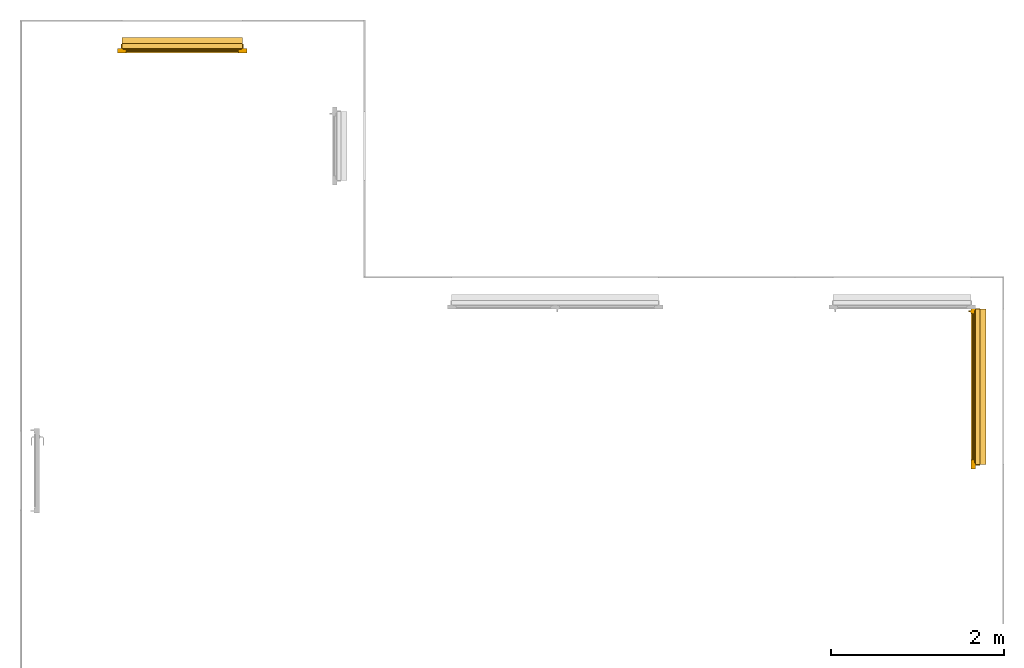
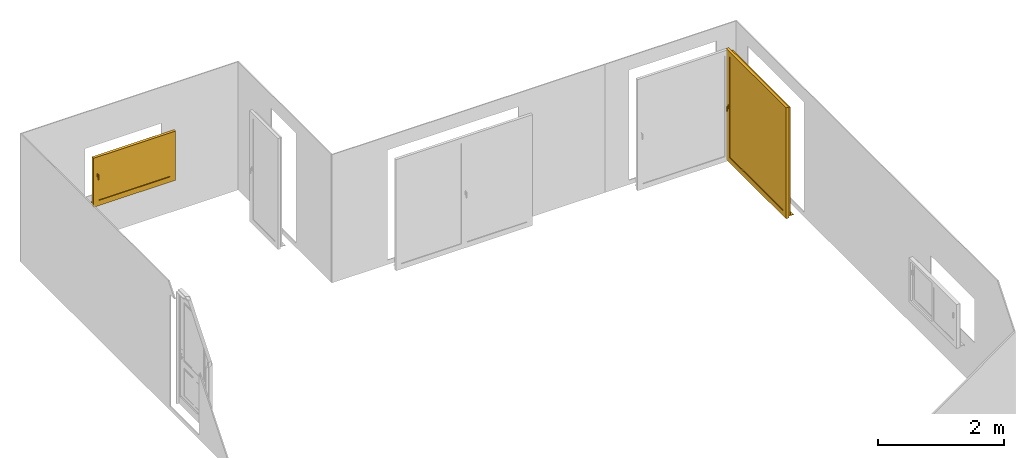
# One storey, part 4 of 6: 2 windows.
"""IFC2X3 building model written with IfcOpenShell, lengths in centimetres."""

from ifc_helpers import new_model, entity, si_unit, converted_unit, derived_unit, direction, frame, origin, place, context, subcontext, project, spatial, faceted_brep, source, transform, mapped, material, material_list, type_object, type_shapes, element, save


model = new_model("IFC2X3")

# Units and contexts
model_context = context("Model", 3, precision=0.001, world=origin(), true_north=direction((6.12303176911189e-17, 1.0)))
body_context = subcontext(model_context, "Body", "Model", "MODEL_VIEW")
ifc_project = project(units=[si_unit("LENGTHUNIT", "METRE", prefix="CENTI"), si_unit("AREAUNIT", "SQUARE_METRE"), si_unit("VOLUMEUNIT", "CUBIC_METRE"), converted_unit("PLANEANGLEUNIT", "DEGREE", entity("IfcRatioMeasure", 0.0174532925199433), si_unit("PLANEANGLEUNIT", "RADIAN"), dimensions=[0, 0, 0, 0, 0, 0, 0]), si_unit("MASSUNIT", "GRAM", prefix="KILO"), derived_unit("MASSDENSITYUNIT", [(si_unit("MASSUNIT", "GRAM", prefix="KILO"), 1), (si_unit("LENGTHUNIT", "METRE"), -3)]), derived_unit("MOMENTOFINERTIAUNIT", [(si_unit("LENGTHUNIT", "METRE"), 4)]), si_unit("TIMEUNIT", "SECOND"), si_unit("FREQUENCYUNIT", "HERTZ"), si_unit("THERMODYNAMICTEMPERATUREUNIT", "DEGREE_CELSIUS"), derived_unit("THERMALTRANSMITTANCEUNIT", [(si_unit("MASSUNIT", "GRAM", prefix="KILO"), 1), (si_unit("THERMODYNAMICTEMPERATUREUNIT", "KELVIN"), -1), (si_unit("TIMEUNIT", "SECOND"), -3)]), derived_unit("VOLUMETRICFLOWRATEUNIT", [(si_unit("LENGTHUNIT", "METRE"), 3), (si_unit("TIMEUNIT", "SECOND"), -1)]), si_unit("ELECTRICCURRENTUNIT", "AMPERE"), si_unit("ELECTRICVOLTAGEUNIT", "VOLT"), si_unit("POWERUNIT", "WATT"), si_unit("FORCEUNIT", "NEWTON", prefix="KILO"), si_unit("ILLUMINANCEUNIT", "LUX"), si_unit("LUMINOUSFLUXUNIT", "LUMEN"), si_unit("LUMINOUSINTENSITYUNIT", "CANDELA"), derived_unit("USERDEFINED", [(si_unit("MASSUNIT", "GRAM", prefix="KILO"), -1), (si_unit("LENGTHUNIT", "METRE"), -2), (si_unit("TIMEUNIT", "SECOND"), 3), (si_unit("LUMINOUSFLUXUNIT", "LUMEN"), 1)]), derived_unit("LINEARVELOCITYUNIT", [(si_unit("LENGTHUNIT", "METRE"), 1), (si_unit("TIMEUNIT", "SECOND"), -1)]), si_unit("PRESSUREUNIT", "PASCAL"), derived_unit("USERDEFINED", [(si_unit("LENGTHUNIT", "METRE"), -2), (si_unit("MASSUNIT", "GRAM", prefix="KILO"), 1), (si_unit("TIMEUNIT", "SECOND"), -2)]), derived_unit("LINEARFORCEUNIT", [(si_unit("MASSUNIT", "GRAM", prefix="KILO"), 1), (si_unit("LENGTHUNIT", "METRE"), 1), (si_unit("TIMEUNIT", "SECOND"), -2), (si_unit("LENGTHUNIT", "METRE"), -1)]), derived_unit("PLANARFORCEUNIT", [(si_unit("MASSUNIT", "GRAM", prefix="KILO"), 1), (si_unit("LENGTHUNIT", "METRE"), 1), (si_unit("TIMEUNIT", "SECOND"), -2), (si_unit("LENGTHUNIT", "METRE"), -2)])], contexts=[model_context])

# Site, building, storey
site_placement = place(None, origin())
site = spatial("IfcSite", under=ifc_project, at=site_placement, Name="Surface", CompositionType="ELEMENT")
building_placement = place(site_placement, origin())
building = spatial("IfcBuilding", under=site, at=building_placement, CompositionType="ELEMENT")
storey_placement = place(building_placement, origin())
storey = spatial("IfcBuildingStorey", under=building, at=storey_placement, Name="1_Rez-de-chaussée", CompositionType="ELEMENT", Elevation=-7.93413063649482e-11)

# Windows
ifc_material_1 = material(Name="Fenêtre - Poignée")
ifc_material_2 = material(Name="Fenêtre - Appui")
ifc_material_3 = material(Name="Fenêtre - Vitrage")
ifc_material_4 = material(Name="Fenêtre - Cadre")
ifc_material_list_1 = material_list([ifc_material_1, ifc_material_2, ifc_material_3, ifc_material_4])
ifc_material_list_2 = material_list([ifc_material_4, ifc_material_2, ifc_material_3, ifc_material_1])
window_style_1 = type_object("IfcWindowStyle", Name="PF 1 Vantail - Droite blanc:180/210", ConstructionType="NOTDEFINED", OperationType="SINGLE_PANEL", ParameterTakesPrecedence=False, Sizeable=False, material=ifc_material_list_2)
shared_shape_1 = source(origin(), body_context, "Body", "Brep", [
    faceted_brep([(8.06460096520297, -58.6000000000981, 112.203392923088), (8.20339292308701, -58.6000000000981, 112.064600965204), (8.20339292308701, -58.6000000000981, 110.933230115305), (8.06676988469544, -58.6000000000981, 110.796607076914), (6.93323011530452, -58.6000000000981, 110.796607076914), (6.79660707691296, -58.6000000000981, 110.933230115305), (6.79660707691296, -58.6000000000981, 112.064600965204), (6.93539903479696, -58.6000000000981, 112.203392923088), (8.06460096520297, -59.891354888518, 112.203392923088), (8.20339292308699, -59.8338653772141, 112.064600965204), (8.20339292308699, -61.1646009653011, 110.733865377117), (8.20339292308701, -61.1646009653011, 102.0), (8.20339292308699, -60.0332301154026, 102.0), (8.20339292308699, -60.0332301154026, 110.265236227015), (8.20339292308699, -59.3652362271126, 110.933230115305), (8.06676988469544, -59.3086451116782, 110.796607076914), (6.93323011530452, -59.3086451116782, 110.796607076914), (6.79660707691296, -59.3652362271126, 110.933230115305), (6.79660707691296, -60.0332301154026, 110.265236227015), (6.79660707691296, -60.0332301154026, 102.0), (6.79660707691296, -61.1646009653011, 102.0), (6.79660707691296, -61.1646009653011, 110.733865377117), (6.79660707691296, -59.8338653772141, 112.064600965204), (6.93539903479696, -59.891354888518, 112.203392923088), (8.06460096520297, -61.3033929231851, 110.791354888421), (8.06676988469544, -59.896607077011, 110.208645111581), (6.93323011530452, -59.896607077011, 110.208645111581), (6.93539903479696, -61.3033929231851, 110.791354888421), (8.06460096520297, -61.3033929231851, 102.0), (6.93539903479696, -61.3033929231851, 102.0), (6.93323011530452, -59.896607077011, 102.0), (8.06676988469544, -59.896607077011, 102.0)], [[[0, 1, 2, 3, 4, 5, 6, 7]], [[1, 0, 8, 9]], [[2, 1, 9, 10, 11, 12, 13, 14]], [[3, 2, 14, 15]], [[4, 3, 15, 16]], [[5, 4, 16, 17]], [[6, 5, 17, 18, 19, 20, 21, 22]], [[7, 6, 22, 23]], [[0, 7, 23, 8]], [[9, 8, 24, 10]], [[15, 14, 13, 25]], [[16, 15, 25, 26]], [[17, 16, 26, 18]], [[23, 22, 21, 27]], [[8, 23, 27, 24]], [[28, 29, 20, 19, 30, 31, 12, 11]], [[10, 24, 28, 11]], [[25, 13, 12, 31]], [[26, 25, 31, 30]], [[18, 26, 30, 19]], [[27, 21, 20, 29]], [[24, 27, 29, 28]]]),
    faceted_brep([(8.20000000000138, -58.6000000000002, 114.0), (6.79999999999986, -58.6000000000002, 114.0), (6.29999999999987, -58.6000000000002, 113.500000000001), (6.29999999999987, -58.6000000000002, 106.499999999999), (6.79999999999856, -58.6000000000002, 106.0), (8.20000000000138, -58.6000000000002, 106.0), (8.69999999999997, -58.6000000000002, 106.499999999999), (8.69999999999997, -58.6000000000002, 113.500000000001), (8.20000000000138, -58.0, 114.0), (8.69999999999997, -58.0, 113.500000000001), (8.69999999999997, -58.0, 106.499999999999), (8.20000000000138, -58.0, 106.0), (6.79999999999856, -58.0, 106.0), (6.29999999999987, -58.0, 106.499999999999), (6.29999999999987, -58.0, 113.500000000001), (6.79999999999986, -58.0, 114.0)], [[[0, 1, 2, 3, 4, 5, 6, 7]], [[8, 9, 10, 11, 12, 13, 14, 15]], [[1, 0, 8, 15]], [[2, 1, 15, 14]], [[3, 2, 14, 13]], [[4, 3, 13, 12]], [[5, 4, 12, 11]], [[6, 5, 11, 10]], [[7, 6, 10, 9]], [[0, 7, 9, 8]]]),
    faceted_brep([(185.0, -40.9971122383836, 3.07927954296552), (185.0, -49.4999999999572, 3.97296905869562), (185.0, -49.4999999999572, 5.0), (185.0, -50.0, 5.0), (185.0, -50.0, 3.4999999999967), (185.0, -41.4971122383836, 2.60631048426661), (185.0, -41.4971122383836, 2.0240114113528), (185.0, -40.9971122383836, 1.97145929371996), (5.0, -40.9971122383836, 3.07927954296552), (5.0, -40.9971122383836, 1.97145929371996), (5.0, -41.4971122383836, 2.0240114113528), (5.0, -41.4971122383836, 2.60631048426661), (5.0, -50.0, 3.4999999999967), (5.0, -50.0, 5.0), (5.0, -49.4999999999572, 5.0), (5.0, -49.4999999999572, 3.97296905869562)], [[[0, 1, 2, 3, 4, 5, 6, 7]], [[8, 9, 10, 11, 12, 13, 14, 15]], [[1, 0, 8, 15]], [[2, 1, 15, 14]], [[3, 2, 14, 13]], [[4, 3, 13, 12]], [[5, 4, 12, 11]], [[6, 5, 11, 10]], [[7, 6, 10, 9]], [[0, 7, 9, 8]]]),
    faceted_brep([(5.0, -40.9971122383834, 3.22187206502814), (5.0, -40.9971122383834, 3.07927954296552), (5.0, -49.4999999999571, 3.97296905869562), (5.0, -49.4999999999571, 4.47572319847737), (5.0, -41.3553008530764, 3.61968082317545), (5.0, -41.0998543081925, 3.48952430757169), (5.49999999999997, -49.4999999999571, 4.47572319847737), (5.49999999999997, -49.4999999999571, 3.97296905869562), (5.49999999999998, -40.9971122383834, 3.07927954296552), (5.49999999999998, -40.9971122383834, 3.22187206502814), (5.49999999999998, -41.0998543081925, 3.48952430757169), (5.49999999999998, -41.3553008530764, 3.61968082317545)], [[[0, 1, 2, 3, 4, 5]], [[6, 7, 8, 9, 10, 11]], [[2, 1, 8, 7]], [[3, 2, 7, 6]], [[4, 3, 6, 11]], [[4, 11, 10, 5]], [[10, 9, 0, 5]], [[1, 0, 9, 8]]]),
    faceted_brep([(184.5, -40.9971122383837, 3.22187206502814), (184.5, -40.9971122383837, 3.07927954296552), (184.5, -49.4999999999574, 3.97296905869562), (184.5, -49.4999999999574, 4.47572319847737), (184.5, -41.3553008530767, 3.61968082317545), (184.5, -41.0998543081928, 3.48952430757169), (185.0, -49.4999999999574, 4.47572319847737), (185.0, -49.4999999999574, 3.97296905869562), (185.0, -40.9971122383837, 3.07927954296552), (185.0, -40.9971122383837, 3.22187206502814), (185.0, -41.0998543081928, 3.48952430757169), (185.0, -41.3553008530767, 3.61968082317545)], [[[0, 1, 2, 3, 4, 5]], [[6, 7, 8, 9, 10, 11]], [[2, 1, 8, 7]], [[3, 2, 7, 6]], [[4, 3, 6, 11]], [[4, 11, 10, 5]], [[10, 9, 0, 5]], [[1, 0, 9, 8]]]),
    faceted_brep([(10.0, -55.4000000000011, 13.5), (10.0, -55.4000000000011, 208.5), (180.0, -55.4000000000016, 208.5), (180.0, -55.4000000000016, 13.5), (10.0, -56.6000000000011, 13.5), (10.0, -56.6000000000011, 208.5), (180.0, -56.6000000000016, 208.5), (180.0, -56.6000000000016, 13.5)], [[[0, 1, 2, 3]], [[1, 0, 4, 5]], [[3, 2, 6, 7]], [[0, 3, 7, 4]], [[4, 7, 6, 5]], [[2, 1, 5, 6]]]),
    faceted_brep([(10.0, -54.0, 208.5), (10.0, -58.0, 208.5), (10.0, -58.0, 13.5), (10.0, -54.0, 13.4999999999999), (180.0, -58.0, 13.5), (180.0, -54.0, 13.5), (180.0, -58.0, 208.5), (185.0, -58.0, 8.50000000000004), (185.0, -58.0, 213.5), (5.0, -58.0, 213.5), (5.0, -58.0, 8.50000000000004), (180.0, -54.0, 208.5), (5.0, -54.0, 8.49999999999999), (5.0, -54.0, 213.5), (185.0, -54.0, 213.5), (185.0, -54.0, 8.50000000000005)], [[[0, 1, 2, 3]], [[3, 2, 4, 5]], [[2, 1, 6, 4], [7, 8, 9, 10]], [[5, 4, 6, 11]], [[5, 11, 0, 3], [12, 13, 14, 15]], [[9, 13, 12, 10]], [[10, 12, 15, 7]], [[7, 15, 14, 8]], [[11, 6, 1, 0]], [[8, 14, 13, 9]]], outer=[[True], [True], [False, True], [True], [False, True], [True], [True], [True], [True], [True]]),
    faceted_brep([(0.0, -58.0, 3.5), (0.0, -53.0, 3.5), (5.0, -53.0, 3.5), (5.0, -50.0, 3.5), (185.0, -50.0, 3.5), (185.0, -53.0, 3.5), (190.0, -53.0, 3.5), (190.0, -58.0, 3.5), (0.0, -58.0, 218.5), (0.0, -53.0, 218.5), (190.0, -53.0, 218.5), (185.0, -53.0, 7.43761424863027), (5.0, -53.0, 7.43761424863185), (6.49999999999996, -53.0, 212.0), (6.49999999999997, -53.0, 10.0), (183.5, -53.0, 10.0), (183.5, -53.0, 212.0), (5.0, -48.0, 6.09786828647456), (5.0, -48.0, 4.50000000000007), (5.0, -49.0, 4.50000000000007), (5.0, -49.0, 5.0), (5.0, -50.0, 5.0), (185.0, -50.0, 5.0), (185.0, -49.0, 5.0), (185.0, -49.0, 4.50000000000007), (185.0, -48.0, 4.50000000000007), (185.0, -48.0, 6.09786828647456), (190.0, -58.0, 218.5), (185.0, -58.0, 213.5), (185.0, -58.0, 8.5), (5.0, -58.0, 8.50000000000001), (5.0, -58.0, 213.5), (6.49999999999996, -54.0, 212.0), (6.49999999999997, -54.0, 10.0), (183.5, -54.0, 10.0), (183.5, -54.0, 212.0), (185.0, -54.0, 213.5), (5.0, -54.0, 213.5), (5.0, -54.0, 8.5), (185.0, -54.0, 8.49999999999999)], [[[0, 1, 2, 3, 4, 5, 6, 7]], [[1, 0, 8, 9]], [[1, 9, 10, 6, 5, 11, 12, 2], [13, 14, 15, 16]], [[12, 17, 18, 19, 20, 21, 3, 2]], [[3, 21, 22, 4]], [[4, 22, 23, 24, 25, 26, 11, 5]], [[6, 10, 27, 7]], [[0, 7, 27, 8], [28, 29, 30, 31]], [[13, 32, 33, 14]], [[33, 34, 15, 14]], [[35, 16, 15, 34]], [[17, 12, 11, 26]], [[36, 37, 38, 39], [32, 35, 34, 33]], [[38, 37, 31, 30]], [[30, 29, 39, 38]], [[28, 36, 39, 29]], [[18, 17, 26, 25]], [[19, 18, 25, 24]], [[20, 19, 24, 23]], [[21, 20, 23, 22]], [[13, 16, 35, 32]], [[37, 36, 28, 31]], [[10, 9, 8, 27]]]),
    faceted_brep([(5.0, -48.0, 3.5), (5.0, -53.0, 3.5), (4.0, -53.0, 3.5), (4.0, -48.0, 3.5), (5.0, -48.0, 213.5), (5.0, -53.0, 213.5), (185.0, -53.0, 213.5), (185.0, -53.0, 3.49999999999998), (186.0, -53.0, 3.49999999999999), (186.0, -53.0, 214.5), (4.0, -53.0, 214.5), (4.0, -48.0, 214.5), (186.0, -48.0, 214.5), (186.0, -48.0, 3.49999999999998), (185.0, -48.0, 3.49999999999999), (185.0, -48.0, 213.5)], [[[0, 1, 2, 3]], [[1, 0, 4, 5]], [[2, 1, 5, 6, 7, 8, 9, 10]], [[3, 2, 10, 11]], [[0, 3, 11, 12, 13, 14, 15, 4]], [[6, 15, 14, 7]], [[14, 13, 8, 7]], [[12, 9, 8, 13]], [[5, 4, 15, 6]], [[11, 10, 9, 12]]]),
])
type_shapes(window_style_1, [shared_shape_1])
window_1_placement = place(storey_placement, frame((-630.177260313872, 690.992317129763, 0.0), z_axis=(0.0, 0.0, 1.0), x_axis=(0.0, -1.0, 0.0)))
element("IfcWindow", 1, at=window_1_placement, inside=storey, type_object=window_style_1, material=ifc_material_list_1, Name="PF 1 Vantail - Droite blanc:180/210", ObjectType="PF 1 Vantail - Droite blanc:180/210", OverallHeight=221.5, OverallWidth=190.0, context=body_context, shape_type="MappedRepresentation", body=[
    mapped(shared_shape_1, transform((0.0, 0.0, 0.0), scale=1.0)),
])
ifc_material_list_3 = material_list([ifc_material_1, ifc_material_2, ifc_material_3, ifc_material_4])
ifc_material_list_4 = material_list([ifc_material_3, ifc_material_4, ifc_material_1, ifc_material_2])
window_style_2 = type_object("IfcWindowStyle", Name="1 Vantail - Droit blanc:140/90", ConstructionType="NOTDEFINED", OperationType="SINGLE_PANEL", ParameterTakesPrecedence=False, Sizeable=False, material=ifc_material_list_4)
shared_shape_2 = source(origin(), body_context, "Body", "Brep", [
    faceted_brep([(8.06460096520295, -58.600000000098, 68.9586046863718), (8.20339292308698, -58.600000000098, 68.8198127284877), (8.20339292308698, -58.600000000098, 67.6884418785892), (8.06676988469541, -58.600000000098, 67.5518188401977), (6.93323011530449, -58.600000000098, 67.5518188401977), (6.79660707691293, -58.600000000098, 67.6884418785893), (6.79660707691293, -58.600000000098, 68.8198127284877), (6.93539903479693, -58.600000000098, 68.9586046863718), (8.06460096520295, -59.8913548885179, 68.9586046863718), (8.20339292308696, -59.833865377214, 68.8198127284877), (8.20339292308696, -61.164600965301, 67.4890771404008), (8.20339292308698, -61.164600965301, 58.7552117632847), (8.20339292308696, -60.0332301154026, 58.7552117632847), (8.20339292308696, -60.0332301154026, 67.0204479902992), (8.20339292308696, -59.3652362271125, 67.6884418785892), (8.06676988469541, -59.3086451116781, 67.5518188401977), (6.93323011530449, -59.3086451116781, 67.5518188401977), (6.79660707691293, -59.3652362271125, 67.6884418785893), (6.79660707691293, -60.0332301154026, 67.0204479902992), (6.79660707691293, -60.0332301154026, 58.7552117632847), (6.79660707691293, -61.164600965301, 58.7552117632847), (6.79660707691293, -61.164600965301, 67.4890771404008), (6.79660707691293, -59.833865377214, 68.8198127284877), (6.93539903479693, -59.8913548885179, 68.9586046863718), (8.06460096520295, -61.3033929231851, 67.5465666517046), (8.06676988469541, -59.896607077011, 66.9638568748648), (6.93323011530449, -59.896607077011, 66.9638568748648), (6.93539903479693, -61.3033929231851, 67.5465666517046), (8.06460096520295, -61.3033929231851, 58.7552117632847), (6.93539903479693, -61.3033929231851, 58.7552117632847), (6.93323011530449, -59.896607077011, 58.7552117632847), (8.06676988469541, -59.896607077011, 58.7552117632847)], [[[0, 1, 2, 3, 4, 5, 6, 7]], [[1, 0, 8, 9]], [[2, 1, 9, 10, 11, 12, 13, 14]], [[3, 2, 14, 15]], [[4, 3, 15, 16]], [[5, 4, 16, 17]], [[6, 5, 17, 18, 19, 20, 21, 22]], [[7, 6, 22, 23]], [[0, 7, 23, 8]], [[9, 8, 24, 10]], [[15, 14, 13, 25]], [[16, 15, 25, 26]], [[17, 16, 26, 18]], [[23, 22, 21, 27]], [[8, 23, 27, 24]], [[28, 29, 20, 19, 30, 31, 12, 11]], [[10, 24, 28, 11]], [[25, 13, 12, 31]], [[26, 25, 31, 30]], [[18, 26, 30, 19]], [[27, 21, 20, 29]], [[24, 27, 29, 28]]]),
    faceted_brep([(8.20000000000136, -58.6000000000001, 70.7552117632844), (6.79999999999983, -58.6000000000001, 70.7552117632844), (6.29999999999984, -58.6000000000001, 70.2552117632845), (6.29999999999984, -58.6000000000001, 63.2552117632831), (6.79999999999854, -58.6000000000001, 62.7552117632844), (8.20000000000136, -58.6000000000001, 62.7552117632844), (8.69999999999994, -58.6000000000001, 63.255211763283), (8.69999999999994, -58.6000000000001, 70.2552117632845), (8.20000000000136, -58.0, 70.7552117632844), (8.69999999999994, -58.0, 70.2552117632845), (8.69999999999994, -58.0, 63.255211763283), (8.20000000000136, -58.0, 62.7552117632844), (6.79999999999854, -58.0, 62.7552117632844), (6.29999999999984, -58.0, 63.2552117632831), (6.29999999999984, -58.0, 70.2552117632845), (6.79999999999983, -58.0, 70.7552117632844)], [[[0, 1, 2, 3, 4, 5, 6, 7]], [[8, 9, 10, 11, 12, 13, 14, 15]], [[1, 0, 8, 15]], [[2, 1, 15, 14]], [[3, 2, 14, 13]], [[4, 3, 13, 12]], [[5, 4, 12, 11]], [[6, 5, 11, 10]], [[7, 6, 10, 9]], [[0, 7, 9, 8]]]),
    faceted_brep([(145.0, -40.4999999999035, 4.78224270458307), (145.0, -49.4999999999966, 5.72818082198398), (145.0, -49.4999999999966, 6.75521176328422), (145.0, -50.0, 6.75521176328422), (145.0, -50.0, 5.25521176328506), (145.0, -41.0, 4.30927364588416), (145.0, -41.0, 3.27922317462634), (145.0, -40.4999999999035, 3.2266710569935), (5.0, -40.4999999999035, 4.78224270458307), (5.0, -40.4999999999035, 3.2266710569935), (5.0, -41.0, 3.27922317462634), (5.0, -41.0, 4.30927364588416), (5.0, -50.0, 5.25521176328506), (5.0, -50.0, 6.75521176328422), (5.0, -49.4999999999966, 6.75521176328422), (5.0, -49.4999999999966, 5.72818082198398)], [[[0, 1, 2, 3, 4, 5, 6, 7]], [[8, 9, 10, 11, 12, 13, 14, 15]], [[1, 0, 8, 15]], [[2, 1, 15, 14]], [[3, 2, 14, 13]], [[4, 3, 13, 12]], [[5, 4, 12, 11]], [[6, 5, 11, 10]], [[7, 6, 10, 9]], [[0, 7, 9, 8]]]),
    faceted_brep([(5.0, -40.4999999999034, 4.92483522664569), (5.0, -40.4999999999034, 4.78224270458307), (5.0, -49.4999999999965, 5.72818082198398), (5.0, -49.4999999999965, 6.23093496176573), (5.0, -40.8581886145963, 5.32264398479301), (5.0, -40.6027420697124, 5.19248746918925), (5.49999999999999, -49.4999999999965, 6.23093496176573), (5.49999999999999, -49.4999999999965, 5.72818082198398), (5.50000000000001, -40.4999999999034, 4.78224270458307), (5.50000000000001, -40.4999999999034, 4.92483522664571), (5.50000000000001, -40.6027420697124, 5.19248746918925), (5.50000000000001, -40.8581886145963, 5.32264398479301)], [[[0, 1, 2, 3, 4, 5]], [[6, 7, 8, 9, 10, 11]], [[2, 1, 8, 7]], [[3, 2, 7, 6]], [[4, 3, 6, 11]], [[4, 11, 10, 5]], [[10, 9, 0, 5]], [[1, 0, 9, 8]]]),
    faceted_brep([(144.5, -40.4999999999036, 4.92483522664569), (144.5, -40.4999999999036, 4.78224270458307), (144.5, -49.4999999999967, 5.72818082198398), (144.5, -49.4999999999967, 6.23093496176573), (144.5, -40.8581886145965, 5.322643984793), (144.5, -40.6027420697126, 5.19248746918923), (145.0, -49.4999999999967, 6.23093496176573), (145.0, -49.4999999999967, 5.72818082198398), (145.0, -40.4999999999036, 4.78224270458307), (145.0, -40.4999999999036, 4.92483522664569), (145.0, -40.6027420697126, 5.19248746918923), (145.0, -40.8581886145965, 5.322643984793)], [[[0, 1, 2, 3, 4, 5]], [[6, 7, 8, 9, 10, 11]], [[2, 1, 8, 7]], [[3, 2, 7, 6]], [[4, 3, 6, 11]], [[4, 11, 10, 5]], [[10, 9, 0, 5]], [[1, 0, 9, 8]]]),
    faceted_brep([(10.0, -55.4000000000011, 16.7552117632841), (10.0, -55.4000000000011, 91.7552117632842), (140.0, -55.4000000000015, 91.7552117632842), (140.0, -55.4000000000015, 16.7552117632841), (10.0, -56.6000000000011, 16.7552117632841), (10.0, -56.6000000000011, 91.7552117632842), (140.0, -56.6000000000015, 91.7552117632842), (140.0, -56.6000000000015, 16.7552117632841)], [[[0, 1, 2, 3]], [[1, 0, 4, 5]], [[3, 2, 6, 7]], [[0, 3, 7, 4]], [[4, 7, 6, 5]], [[2, 1, 5, 6]]]),
    faceted_brep([(10.0, -54.0, 91.7552117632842), (10.0, -58.0, 91.7552117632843), (10.0, -58.0, 16.7552117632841), (10.0, -54.0, 16.7552117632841), (140.0, -58.0, 16.7552117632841), (140.0, -54.0, 16.7552117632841), (140.0, -58.0, 91.7552117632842), (145.0, -58.0, 11.7552117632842), (145.0, -58.0, 96.7552117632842), (5.0, -58.0, 96.7552117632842), (5.0, -58.0, 11.7552117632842), (140.0, -54.0, 91.7552117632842), (5.0, -54.0, 11.7552117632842), (5.0, -54.0, 96.7552117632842), (145.0, -54.0, 96.7552117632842), (145.0, -54.0, 11.7552117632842)], [[[0, 1, 2, 3]], [[3, 2, 4, 5]], [[2, 1, 6, 4], [7, 8, 9, 10]], [[5, 4, 6, 11]], [[5, 11, 0, 3], [12, 13, 14, 15]], [[9, 13, 12, 10]], [[10, 12, 15, 7]], [[7, 15, 14, 8]], [[11, 6, 1, 0]], [[8, 14, 13, 9]]], outer=[[True], [True], [False, True], [True], [False, True], [True], [True], [True], [True], [True]]),
    faceted_brep([(0.0, -58.0, 6.75521176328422), (0.0, -53.0, 6.75521176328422), (5.0, -53.0, 6.75521176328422), (5.0, -48.0, 6.75521176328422), (145.0, -48.0, 6.75521176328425), (145.0, -53.0, 6.75521176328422), (150.0, -53.0, 6.75521176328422), (150.0, -58.0, 6.75521176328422), (0.0, -58.0, 101.755211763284), (0.0, -53.0, 101.755211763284), (150.0, -53.0, 101.755211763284), (145.0, -53.0, 10.6928260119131), (5.0, -53.0, 10.6928260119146), (6.49999999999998, -53.0, 95.2552117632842), (6.49999999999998, -53.0, 13.2552117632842), (143.5, -53.0, 13.2552117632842), (143.5, -53.0, 95.2552117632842), (5.0, -47.0, 9.08513085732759), (5.0, -47.0, 6.25521176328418), (5.0, -48.0, 6.25521176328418), (145.0, -48.0, 6.25521176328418), (145.0, -47.0, 6.25521176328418), (145.0, -47.0, 9.08513085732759), (150.0, -58.0, 101.755211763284), (145.0, -58.0, 96.7552117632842), (145.0, -58.0, 11.7552117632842), (5.0, -58.0, 11.7552117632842), (5.0, -58.0, 96.7552117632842), (6.49999999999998, -54.0, 95.2552117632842), (6.49999999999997, -54.0, 13.2552117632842), (143.5, -54.0, 13.2552117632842), (143.5, -54.0, 95.2552117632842), (145.0, -54.0, 96.7552117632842), (5.0, -54.0, 96.7552117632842), (5.0, -54.0, 11.7552117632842), (145.0, -54.0, 11.7552117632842)], [[[0, 1, 2, 3, 4, 5, 6, 7]], [[1, 0, 8, 9]], [[1, 9, 10, 6, 5, 11, 12, 2], [13, 14, 15, 16]], [[12, 17, 18, 19, 3, 2]], [[3, 19, 20, 4]], [[4, 20, 21, 22, 11, 5]], [[6, 10, 23, 7]], [[0, 7, 23, 8], [24, 25, 26, 27]], [[13, 28, 29, 14]], [[29, 30, 15, 14]], [[31, 16, 15, 30]], [[17, 12, 11, 22]], [[32, 33, 34, 35], [28, 31, 30, 29]], [[34, 33, 27, 26]], [[26, 25, 35, 34]], [[24, 32, 35, 25]], [[18, 17, 22, 21]], [[19, 18, 21, 20]], [[13, 16, 31, 28]], [[33, 32, 24, 27]], [[10, 9, 8, 23]]]),
    faceted_brep([(5.0, -48.0, 6.75521176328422), (5.0, -53.0, 6.75521176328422), (4.0, -53.0, 6.75521176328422), (4.0, -48.0, 6.75521176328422), (5.0, -48.0, 96.7552117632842), (5.0, -53.0, 96.7552117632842), (145.0, -53.0, 96.7552117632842), (145.0, -53.0, 6.75521176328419), (146.0, -53.0, 6.75521176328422), (146.0, -53.0, 97.7552117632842), (4.0, -53.0, 97.7552117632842), (4.0, -48.0, 97.7552117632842), (146.0, -48.0, 97.7552117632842), (146.0, -48.0, 6.75521176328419), (145.0, -48.0, 6.75521176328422), (145.0, -48.0, 96.7552117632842)], [[[0, 1, 2, 3]], [[1, 0, 4, 5]], [[2, 1, 5, 6, 7, 8, 9, 10]], [[3, 2, 10, 11]], [[0, 3, 11, 12, 13, 14, 15, 4]], [[6, 15, 14, 7]], [[14, 13, 8, 7]], [[12, 9, 8, 13]], [[5, 4, 15, 6]], [[11, 10, 9, 12]]]),
])
type_shapes(window_style_2, [shared_shape_2])
window_2_placement = place(storey_placement, frame((-1677.17726031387, 1040.99231712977, 73.2447882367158)))
element("IfcWindow", 2, at=window_2_placement, inside=storey, type_object=window_style_2, material=ifc_material_list_3, Name="1 Vantail - Droit blanc:140/90", ObjectType="1 Vantail - Droit blanc:140/90", OverallHeight=108.0, OverallWidth=150.0, context=body_context, shape_type="MappedRepresentation", body=[
    mapped(shared_shape_2, transform((0.0, 0.0, 0.0), scale=1.0)),
])

save(model, "model.ifc")
